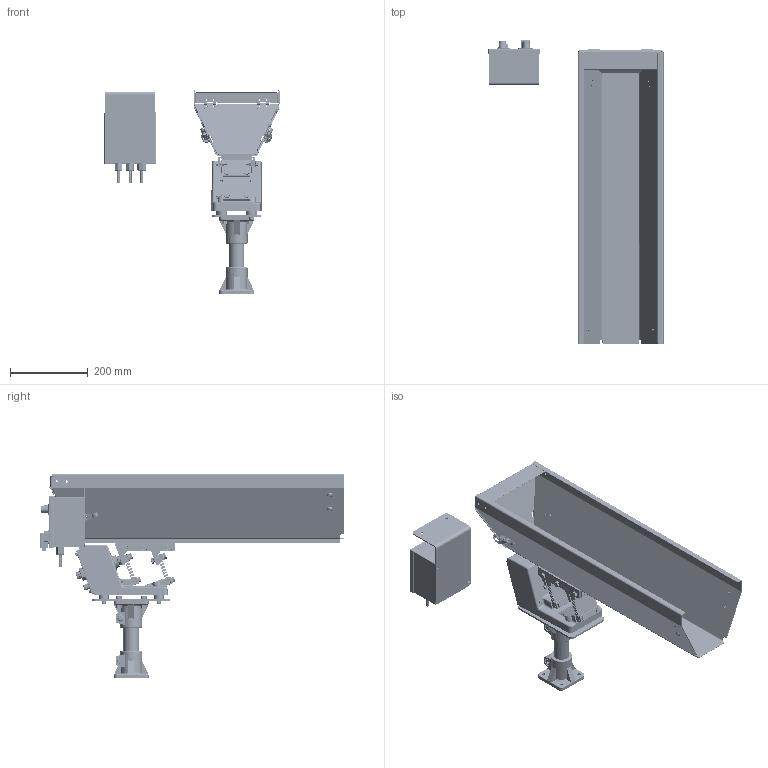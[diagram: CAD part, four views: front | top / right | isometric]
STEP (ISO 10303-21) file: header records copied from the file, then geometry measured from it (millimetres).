
FILE_DESCRIPTION (( 'STEP AP214' ), '1' );
FILE_NAME ('GM000290..step', '2026-10-16T12:12:45', ( '' ), ( '' ), 'SwSTEP 2.0', 'SolidWorks 2025', '' );
FILE_SCHEMA (( 'AUTOMOTIVE_DESIGN' ));
Length unit declared in the file: millimetre
Products named in the file (34): CM000064; PD001174; CM000305_002; PD001013; CM000561; CM000934; CM000079; CM000055; SM000080; CM000031; CM000029; PD001016; PD001172; GM000290.; PD001182_001; CM000306; PD001182_002; CM000922; CM000305; CM000979; CM000306_002; CM000305_003; CM000924; PD000067; CM000305_001; CM000306_003; PD001182; CE000026; CM000921; PD001014; CM000306_001; CM000432; CM000925
Assembly tree (67 placements, depth 3):
  GM000290.
    CM000561  x10
    CM000064  x4
    CM000031  x4
    CM000079  x4
    CM000029  x8
    CM000979  x6
    PD001182
      PD001182_001
      PD001182_002
    PD001172
    CM000305
      CM000305_001
      CM000305_003
      CM000305_002
    CM000305
      CM000305_001
      CM000305_003
      CM000305_002
    PD001174
    CM000306  x2
      CM000306_001
      CM000306_002
      CM000306_003
    PD001016
    PD001014
    CM000055
    PD001013
    PD000067
    CE000026
    CM000432  x2
    SM000080
    CM000934  x4
  CM000922
  CM000924
  CM000921
  CM000925
Bounding box: 451.77 x 785 x 527.84 mm (x, y, z)
Volume: 3630275.9 mm3; surface area: 1666494.4 mm2
Topology: 64 solids, 65 shells, 8782 faces, 24142 edges, 15608 vertices
Faces by surface type: cylinder 6343, plane 1548, cone 516, torus 165, sphere 158, bspline 52
Entity records: 147549 total; most frequent: CARTESIAN_POINT 63560, ORIENTED_EDGE 19592, DIRECTION 12518, EDGE_CURVE 9798, VERTEX_POINT 6177, B_SPLINE_CURVE_WITH_KNOTS 5981, AXIS2_PLACEMENT_3D 5003, EDGE_LOOP 4175
